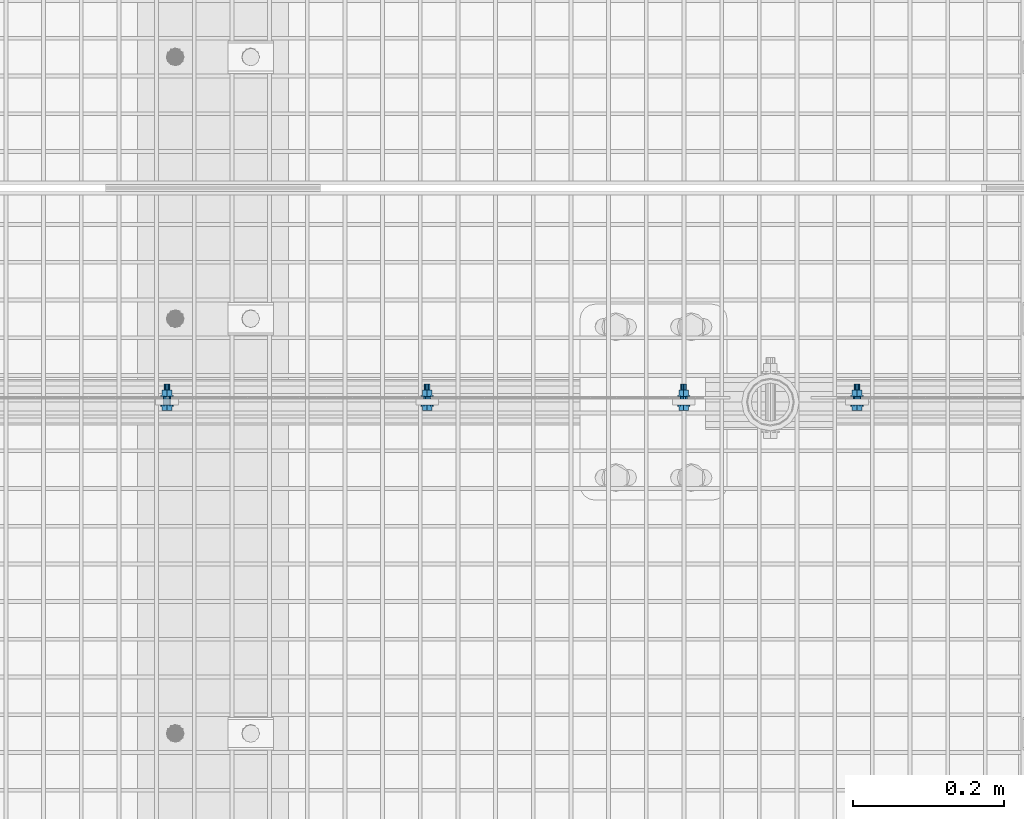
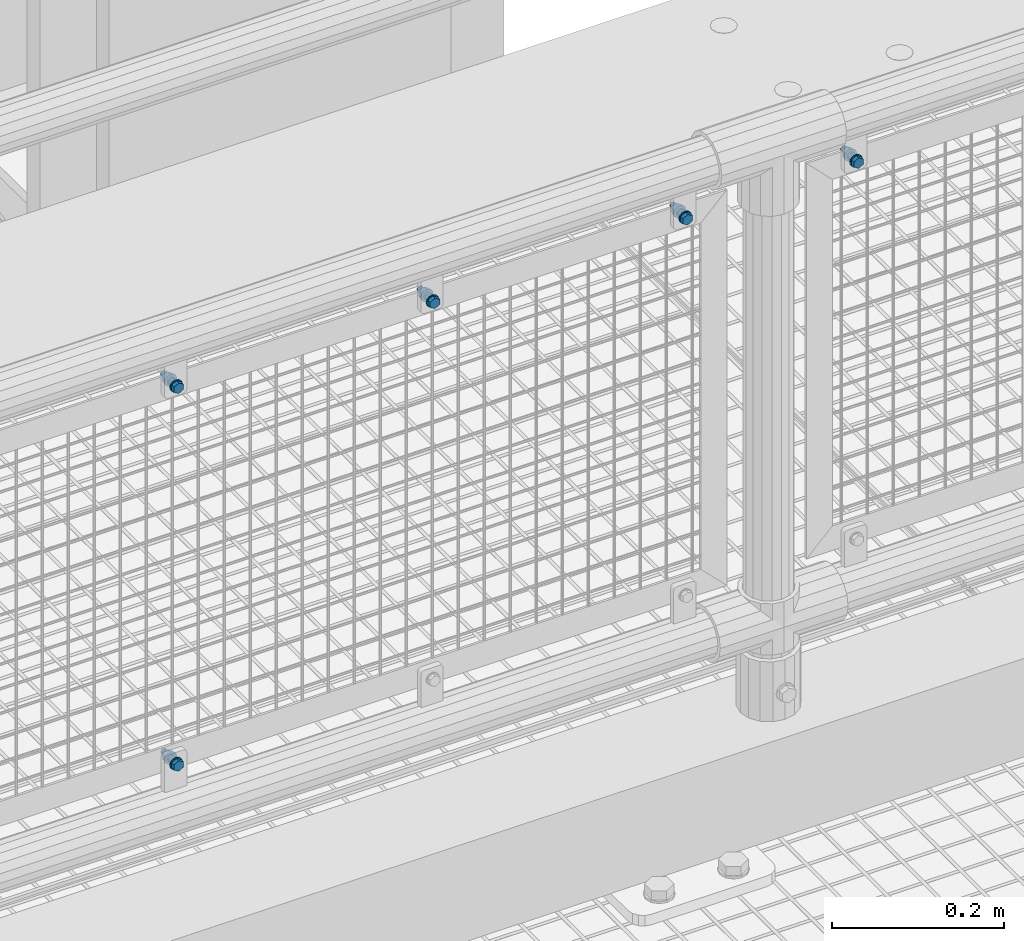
# One storey, part 94 of 1530: 5 mechanical fasteners.
"""IFC2X3 building model written with IfcOpenShell, lengths in millimetres."""

from ifc_helpers import new_model, si_unit, frame, origin_with_axes, place, context, subcontext, project, spatial, faceted_brep, source, transform, mapped, material, type_object, element, save


model = new_model("IFC2X3")

# Units and contexts
model_context = context("Model", 3, precision=1e-05, world=origin_with_axes())
body_context = subcontext(model_context, "Body", "Model", "MODEL_VIEW")
ifc_project = project(units=[si_unit("LENGTHUNIT", "METRE", prefix="MILLI"), si_unit("AREAUNIT", "SQUARE_METRE"), si_unit("VOLUMEUNIT", "CUBIC_METRE"), si_unit("MASSUNIT", "GRAM", prefix="KILO"), si_unit("TIMEUNIT", "SECOND"), si_unit("PLANEANGLEUNIT", "RADIAN"), si_unit("SOLIDANGLEUNIT", "STERADIAN"), si_unit("THERMODYNAMICTEMPERATUREUNIT", "DEGREE_CELSIUS"), si_unit("LUMINOUSINTENSITYUNIT", "LUMEN")], contexts=[model_context])

# Site, building, storey
site_placement = place(None, origin_with_axes())
site = spatial("IfcSite", under=ifc_project, at=site_placement, Name="Brattvåg", CompositionType="ELEMENT")
building_placement = place(site_placement, origin_with_axes())
building = spatial("IfcBuilding", under=site, at=building_placement, Name="Undefined", CompositionType="ELEMENT")
storey_placement = place(building_placement, origin_with_axes())
storey = spatial("IfcBuildingStorey", under=building, at=storey_placement, Name="Undefined", CompositionType="ELEMENT", Elevation=0.0)

# Mechanical fasteners
ifc_material = material(Name="8")
mechanical_fastener_type = type_object("IfcMechanicalFastenerType", Name="Bolt assembly")
shared_shape_1 = source(origin_with_axes(), body_context, "Body", "Brep", [
    faceted_brep([(7.50555349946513, -6.90000021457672, 0.0), (3.75277674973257, -6.90000021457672, 6.5), (-3.75277674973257, -6.90000021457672, 6.5), (-7.50555349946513, -6.90000021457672, 9.19165206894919e-16), (-3.75277674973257, -6.90000021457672, -6.5), (3.75277674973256, -6.90000021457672, -6.5), (3.75277674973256, -1.60000002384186, -6.5), (-3.75277674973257, -1.60000002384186, -6.5), (-7.50555349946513, -1.60000002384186, 9.19165206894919e-16), (-3.75277674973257, -1.60000002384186, 6.5), (3.75277674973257, -1.60000002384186, 6.5), (7.50555349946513, -1.60000002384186, 0.0), (4.0, -1.60000002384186, 0.0), (3.46410161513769, -1.60000002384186, 2.00000000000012), (1.99999999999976, -1.60000002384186, 3.46410161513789), (-4.14534392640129e-13, -1.60000002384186, 4.0), (-2.00000000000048, -1.60000002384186, 3.46410161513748), (-3.4641016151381, -1.60000002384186, 1.9999999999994), (-4.0, -1.60000002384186, -8.29068785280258e-13), (-3.46410161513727, -1.60000002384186, -2.00000000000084), (-1.99999999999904, -1.60000002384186, -3.46410161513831), (1.23916228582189e-12, -1.60000002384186, -4.0), (2.00000000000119, -1.60000002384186, -3.46410161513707), (3.46410161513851, -1.60000002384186, -1.99999999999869), (3.46410161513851, 28.3999999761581, -1.99999999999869), (2.00000000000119, 28.3999999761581, -3.46410161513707), (1.23916228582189e-12, 28.3999999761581, -4.0), (-1.99999999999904, 28.3999999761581, -3.46410161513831), (-3.46410161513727, 28.3999999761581, -2.00000000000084), (-4.0, 28.3999999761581, -8.29068785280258e-13), (-3.4641016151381, 28.3999999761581, 1.9999999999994), (-2.00000000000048, 28.3999999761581, 3.46410161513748), (-4.14534392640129e-13, 28.3999999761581, 4.0), (1.99999999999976, 28.3999999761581, 3.46410161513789), (3.46410161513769, 28.3999999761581, 2.00000000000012), (4.0, 28.3999999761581, 0.0), (8.5, -1.60000002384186, 0.0), (7.36121593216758, -1.60000002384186, 4.25000000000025), (4.24999999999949, -1.60000002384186, 7.36121593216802), (-8.80885584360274e-13, -1.60000002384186, 8.5), (-4.25000000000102, -1.60000002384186, 7.36121593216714), (-7.36121593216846, -1.60000002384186, 4.24999999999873), (-8.5, -1.60000002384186, -1.76177116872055e-12), (-7.3612159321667, -1.60000002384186, -4.25000000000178), (-4.24999999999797, -1.60000002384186, -7.3612159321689), (2.63321985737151e-12, -1.60000002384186, -8.5), (4.25000000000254, -1.60000002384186, -7.36121593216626), (7.36121593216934, -1.60000002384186, -4.24999999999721), (7.36121593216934, 0.0, -4.24999999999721), (4.25000000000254, 0.0, -7.36121593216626), (2.63321985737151e-12, 0.0, -8.5), (-4.24999999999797, 0.0, -7.3612159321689), (-7.3612159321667, 0.0, -4.25000000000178), (-8.5, 0.0, -1.76177116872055e-12), (-7.36121593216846, 0.0, 4.24999999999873), (-4.25000000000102, 0.0, 7.36121593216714), (-8.80885584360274e-13, 0.0, 8.5), (4.24999999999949, 0.0, 7.36121593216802), (7.36121593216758, 0.0, 4.25000000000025), (8.5, 0.0, 0.0), (8.5, 11.5015258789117, 0.0), (7.36121593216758, 11.5015258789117, 4.25000000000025), (4.24999999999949, 11.5015258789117, 7.36121593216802), (-8.80885584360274e-13, 11.5015258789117, 8.5), (-4.25000000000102, 11.5015258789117, 7.36121593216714), (-7.36121593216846, 11.5015258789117, 4.24999999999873), (-8.5, 11.5015258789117, -1.76177116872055e-12), (-7.3612159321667, 11.5015258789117, -4.25000000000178), (-4.24999999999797, 11.5015258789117, -7.3612159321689), (2.63321985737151e-12, 11.5015258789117, -8.5), (4.25000000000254, 11.5015258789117, -7.36121593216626), (7.36121593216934, 11.5015258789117, -4.24999999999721), (7.36121593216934, 13.1015259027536, -4.24999999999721), (4.25000000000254, 13.1015259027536, -7.36121593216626), (2.63321985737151e-12, 13.1015259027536, -8.5), (-4.24999999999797, 13.1015259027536, -7.3612159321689), (-7.3612159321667, 13.1015259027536, -4.25000000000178), (-8.5, 13.1015259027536, -1.76177116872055e-12), (-7.36121593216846, 13.1015259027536, 4.24999999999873), (-4.25000000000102, 13.1015259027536, 7.36121593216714), (-8.80885584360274e-13, 13.1015259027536, 8.5), (4.24999999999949, 13.1015259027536, 7.36121593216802), (7.36121593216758, 13.1015259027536, 4.25000000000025), (8.5, 13.1015259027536, 0.0), (7.50555349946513, 13.1015259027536, 0.0), (3.75277674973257, 13.1015259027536, 6.5), (-3.75277674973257, 13.1015259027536, 6.5), (-7.50555349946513, 13.1015259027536, 9.19165206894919e-16), (-3.75277674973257, 13.1015259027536, -6.5), (3.75277674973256, 13.1015259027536, -6.5), (3.75277674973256, 19.9015260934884, -6.5), (-3.75277674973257, 19.9015260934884, -6.5), (-7.50555349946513, 19.9015260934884, 9.19165206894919e-16), (-3.75277674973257, 19.9015260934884, 6.5), (3.75277674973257, 19.9015260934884, 6.5), (7.50555349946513, 19.9015260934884, 0.0)], [[[0, 1, 2, 3, 4, 5]], [[6, 7, 8, 9, 10, 11]], [[0, 11, 10, 1]], [[1, 10, 9, 2]], [[2, 9, 8, 3]], [[3, 8, 7, 4]], [[4, 7, 6, 5]], [[5, 6, 11, 0]], [[12, 13, 14, 15, 16, 17, 18, 19, 20, 21, 22, 23]], [[24, 25, 26, 27, 28, 29, 30, 31, 32, 33, 34, 35]], [[12, 35, 34, 13]], [[13, 34, 33, 14]], [[14, 33, 32, 15]], [[15, 32, 31, 16]], [[16, 31, 30, 17]], [[17, 30, 29, 18]], [[18, 29, 28, 19]], [[19, 28, 27, 20]], [[20, 27, 26, 21]], [[21, 26, 25, 22]], [[22, 25, 24, 23]], [[23, 24, 35, 12]], [[36, 37, 38, 39, 40, 41, 42, 43, 44, 45, 46, 47]], [[48, 49, 50, 51, 52, 53, 54, 55, 56, 57, 58, 59]], [[36, 59, 58, 37]], [[37, 58, 57, 38]], [[38, 57, 56, 39]], [[39, 56, 55, 40]], [[40, 55, 54, 41]], [[41, 54, 53, 42]], [[42, 53, 52, 43]], [[43, 52, 51, 44]], [[44, 51, 50, 45]], [[45, 50, 49, 46]], [[46, 49, 48, 47]], [[47, 48, 59, 36]], [[60, 61, 62, 63, 64, 65, 66, 67, 68, 69, 70, 71]], [[72, 73, 74, 75, 76, 77, 78, 79, 80, 81, 82, 83]], [[60, 83, 82, 61]], [[61, 82, 81, 62]], [[62, 81, 80, 63]], [[63, 80, 79, 64]], [[64, 79, 78, 65]], [[65, 78, 77, 66]], [[66, 77, 76, 67]], [[67, 76, 75, 68]], [[68, 75, 74, 69]], [[69, 74, 73, 70]], [[70, 73, 72, 71]], [[71, 72, 83, 60]], [[84, 85, 86, 87, 88, 89]], [[90, 91, 92, 93, 94, 95]], [[84, 95, 94, 85]], [[85, 94, 93, 86]], [[86, 93, 92, 87]], [[87, 92, 91, 88]], [[88, 91, 90, 89]], [[89, 90, 95, 84]]]),
    faceted_brep([(5.0, 0.1, 0.0), (4.33012701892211, 0.1, 2.50000000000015), (2.4999999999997, 0.1, 4.33012701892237), (-5.18167990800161e-13, 0.1, 5.0), (-2.5000000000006, 0.1, 4.33012701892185), (-4.33012701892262, 0.1, 2.49999999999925), (-5.0, 0.1, -1.03633598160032e-12), (-4.33012701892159, 0.1, -2.50000000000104), (-2.49999999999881, 0.1, -4.33012701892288), (1.54895285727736e-12, 0.1, -5.0), (2.50000000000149, 0.1, -4.33012701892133), (4.33012701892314, 0.1, -2.49999999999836), (4.33012701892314, 8.1, -2.49999999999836), (2.50000000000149, 8.1, -4.33012701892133), (1.54895285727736e-12, 8.1, -5.0), (-2.49999999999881, 8.1, -4.33012701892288), (-4.33012701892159, 8.1, -2.50000000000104), (-5.0, 8.1, -1.03633598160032e-12), (-4.33012701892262, 8.1, 2.49999999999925), (-2.5000000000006, 8.1, 4.33012701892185), (-5.18167990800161e-13, 8.1, 5.0), (2.4999999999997, 8.1, 4.33012701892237), (4.33012701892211, 8.1, 2.50000000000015), (5.0, 8.1, 0.0), (5.0, 8.40152587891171, 0.0), (4.33012701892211, 8.40152587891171, 2.50000000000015), (2.4999999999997, 8.40152587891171, 4.33012701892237), (-5.18167990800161e-13, 8.40152587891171, 5.0), (-2.5000000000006, 8.40152587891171, 4.33012701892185), (-4.33012701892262, 8.40152587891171, 2.49999999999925), (-5.0, 8.40152587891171, -1.03633598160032e-12), (-4.33012701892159, 8.40152587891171, -2.50000000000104), (-2.49999999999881, 8.40152587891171, -4.33012701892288), (1.54895285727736e-12, 8.40152587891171, -5.0), (2.50000000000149, 8.40152587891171, -4.33012701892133), (4.33012701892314, 8.40152587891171, -2.49999999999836), (4.33012701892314, 11.5015258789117, -2.49999999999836), (2.50000000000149, 11.5015258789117, -4.33012701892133), (1.54895285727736e-12, 11.5015258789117, -5.0), (-2.49999999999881, 11.5015258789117, -4.33012701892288), (-4.33012701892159, 11.5015258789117, -2.50000000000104), (-5.0, 11.5015258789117, -1.03633598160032e-12), (-4.33012701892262, 11.5015258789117, 2.49999999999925), (-2.5000000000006, 11.5015258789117, 4.33012701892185), (-5.18167990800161e-13, 11.5015258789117, 5.0), (2.4999999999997, 11.5015258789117, 4.33012701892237), (4.33012701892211, 11.5015258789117, 2.50000000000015), (5.0, 11.5015258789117, 0.0)], [[[0, 1, 2, 3, 4, 5, 6, 7, 8, 9, 10, 11]], [[12, 13, 14, 15, 16, 17, 18, 19, 20, 21, 22, 23]], [[0, 23, 22, 1]], [[1, 22, 21, 2]], [[2, 21, 20, 3]], [[3, 20, 19, 4]], [[4, 19, 18, 5]], [[5, 18, 17, 6]], [[6, 17, 16, 7]], [[7, 16, 15, 8]], [[8, 15, 14, 9]], [[9, 14, 13, 10]], [[10, 13, 12, 11]], [[11, 12, 23, 0]], [[24, 25, 26, 27, 28, 29, 30, 31, 32, 33, 34, 35]], [[36, 37, 38, 39, 40, 41, 42, 43, 44, 45, 46, 47]], [[24, 47, 46, 25]], [[25, 46, 45, 26]], [[26, 45, 44, 27]], [[27, 44, 43, 28]], [[28, 43, 42, 29]], [[29, 42, 41, 30]], [[30, 41, 40, 31]], [[31, 40, 39, 32]], [[32, 39, 38, 33]], [[33, 38, 37, 34]], [[34, 37, 36, 35]], [[35, 36, 47, 24]]]),
])
for number, where, z_axis, x_axis, name in (
    (1, (11020.8504180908, 7660.49950027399, 889.680069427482), (-1.0, 1.99999855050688e-09, 0.0), (0.0, 0.0, 1.0), "Bolt assembly"),
    (2, (11365.8516387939, 7660.49950027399, 889.680069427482), (-1.0, 1.99999855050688e-09, 0.0), (0.0, 0.0, 1.0), "Bolt assembly"),
    (3, (11935.8509521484, 7660.49950027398, 889.680069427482), (-1.0, 1.99999855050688e-09, 0.0), (0.0, 0.0, 1.0), "Bolt assembly"),
):
    element("IfcMechanicalFastener", number, at=place(storey_placement, frame(where, z_axis=z_axis, x_axis=x_axis)), inside=storey, type_object=mechanical_fastener_type, material=ifc_material, Name=name, NominalDiameter=8.0, NominalLength=30.0, context=body_context, shape_type="MappedRepresentation", body=[
        mapped(shared_shape_1, transform((0.0, 0.0, 0.0))),
    ])
shared_shape_2 = source(origin_with_axes(), body_context, "Body", "Brep", [
    faceted_brep([(7.50555349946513, -6.90000021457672, 0.0), (3.75277674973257, -6.90000021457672, 6.5), (-3.75277674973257, -6.90000021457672, 6.5), (-7.50555349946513, -6.90000021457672, 9.19165206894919e-16), (-3.75277674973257, -6.90000021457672, -6.5), (3.75277674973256, -6.90000021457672, -6.5), (3.75277674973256, -1.60000002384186, -6.5), (-3.75277674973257, -1.60000002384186, -6.5), (-7.50555349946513, -1.60000002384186, 9.19165206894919e-16), (-3.75277674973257, -1.60000002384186, 6.5), (3.75277674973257, -1.60000002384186, 6.5), (7.50555349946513, -1.60000002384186, 0.0), (4.0, -1.60000002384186, 0.0), (3.46410161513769, -1.60000002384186, 2.00000000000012), (1.99999999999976, -1.60000002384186, 3.46410161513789), (-4.14534392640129e-13, -1.60000002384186, 4.0), (-2.00000000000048, -1.60000002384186, 3.46410161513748), (-3.4641016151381, -1.60000002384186, 1.9999999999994), (-4.0, -1.60000002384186, -8.29068785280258e-13), (-3.46410161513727, -1.60000002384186, -2.00000000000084), (-1.99999999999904, -1.60000002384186, -3.46410161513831), (1.23916228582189e-12, -1.60000002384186, -4.0), (2.00000000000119, -1.60000002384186, -3.46410161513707), (3.46410161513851, -1.60000002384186, -1.99999999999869), (3.46410161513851, 28.3999999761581, -1.99999999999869), (2.00000000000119, 28.3999999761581, -3.46410161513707), (1.23916228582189e-12, 28.3999999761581, -4.0), (-1.99999999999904, 28.3999999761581, -3.46410161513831), (-3.46410161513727, 28.3999999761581, -2.00000000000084), (-4.0, 28.3999999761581, -8.29068785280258e-13), (-3.4641016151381, 28.3999999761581, 1.9999999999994), (-2.00000000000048, 28.3999999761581, 3.46410161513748), (-4.14534392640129e-13, 28.3999999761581, 4.0), (1.99999999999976, 28.3999999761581, 3.46410161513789), (3.46410161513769, 28.3999999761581, 2.00000000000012), (4.0, 28.3999999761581, 0.0), (8.5, -1.60000002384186, 0.0), (7.36121593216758, -1.60000002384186, 4.25000000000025), (4.24999999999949, -1.60000002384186, 7.36121593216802), (-8.80885584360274e-13, -1.60000002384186, 8.5), (-4.25000000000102, -1.60000002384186, 7.36121593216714), (-7.36121593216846, -1.60000002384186, 4.24999999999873), (-8.5, -1.60000002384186, -1.76177116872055e-12), (-7.3612159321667, -1.60000002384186, -4.25000000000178), (-4.24999999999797, -1.60000002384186, -7.3612159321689), (2.63321985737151e-12, -1.60000002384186, -8.5), (4.25000000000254, -1.60000002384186, -7.36121593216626), (7.36121593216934, -1.60000002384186, -4.24999999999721), (7.36121593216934, 0.0, -4.24999999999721), (4.25000000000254, 0.0, -7.36121593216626), (2.63321985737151e-12, 0.0, -8.5), (-4.24999999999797, 0.0, -7.3612159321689), (-7.3612159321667, 0.0, -4.25000000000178), (-8.5, 0.0, -1.76177116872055e-12), (-7.36121593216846, 0.0, 4.24999999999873), (-4.25000000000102, 0.0, 7.36121593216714), (-8.80885584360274e-13, 0.0, 8.5), (4.24999999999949, 0.0, 7.36121593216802), (7.36121593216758, 0.0, 4.25000000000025), (8.5, 0.0, 0.0), (8.5, 11.5021362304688, 0.0), (7.36121593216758, 11.5021362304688, 4.25000000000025), (4.24999999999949, 11.5021362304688, 7.36121593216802), (-8.80885584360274e-13, 11.5021362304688, 8.5), (-4.25000000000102, 11.5021362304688, 7.36121593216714), (-7.36121593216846, 11.5021362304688, 4.24999999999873), (-8.5, 11.5021362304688, -1.76177116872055e-12), (-7.3612159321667, 11.5021362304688, -4.25000000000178), (-4.24999999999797, 11.5021362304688, -7.3612159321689), (2.63321985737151e-12, 11.5021362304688, -8.5), (4.25000000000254, 11.5021362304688, -7.36121593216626), (7.36121593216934, 11.5021362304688, -4.24999999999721), (7.36121593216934, 13.1021362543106, -4.24999999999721), (4.25000000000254, 13.1021362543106, -7.36121593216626), (2.63321985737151e-12, 13.1021362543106, -8.5), (-4.24999999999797, 13.1021362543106, -7.3612159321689), (-7.3612159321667, 13.1021362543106, -4.25000000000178), (-8.5, 13.1021362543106, -1.76177116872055e-12), (-7.36121593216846, 13.1021362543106, 4.24999999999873), (-4.25000000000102, 13.1021362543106, 7.36121593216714), (-8.80885584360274e-13, 13.1021362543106, 8.5), (4.24999999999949, 13.1021362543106, 7.36121593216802), (7.36121593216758, 13.1021362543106, 4.25000000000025), (8.5, 13.1021362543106, 0.0), (7.50555349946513, 13.1021362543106, 0.0), (3.75277674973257, 13.1021362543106, 6.5), (-3.75277674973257, 13.1021362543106, 6.5), (-7.50555349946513, 13.1021362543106, 9.19165206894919e-16), (-3.75277674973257, 13.1021362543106, -6.5), (3.75277674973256, 13.1021362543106, -6.5), (3.75277674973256, 19.9021364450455, -6.5), (-3.75277674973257, 19.9021364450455, -6.5), (-7.50555349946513, 19.9021364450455, 9.19165206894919e-16), (-3.75277674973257, 19.9021364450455, 6.5), (3.75277674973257, 19.9021364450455, 6.5), (7.50555349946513, 19.9021364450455, 0.0)], [[[0, 1, 2, 3, 4, 5]], [[6, 7, 8, 9, 10, 11]], [[0, 11, 10, 1]], [[1, 10, 9, 2]], [[2, 9, 8, 3]], [[3, 8, 7, 4]], [[4, 7, 6, 5]], [[5, 6, 11, 0]], [[12, 13, 14, 15, 16, 17, 18, 19, 20, 21, 22, 23]], [[24, 25, 26, 27, 28, 29, 30, 31, 32, 33, 34, 35]], [[12, 35, 34, 13]], [[13, 34, 33, 14]], [[14, 33, 32, 15]], [[15, 32, 31, 16]], [[16, 31, 30, 17]], [[17, 30, 29, 18]], [[18, 29, 28, 19]], [[19, 28, 27, 20]], [[20, 27, 26, 21]], [[21, 26, 25, 22]], [[22, 25, 24, 23]], [[23, 24, 35, 12]], [[36, 37, 38, 39, 40, 41, 42, 43, 44, 45, 46, 47]], [[48, 49, 50, 51, 52, 53, 54, 55, 56, 57, 58, 59]], [[36, 59, 58, 37]], [[37, 58, 57, 38]], [[38, 57, 56, 39]], [[39, 56, 55, 40]], [[40, 55, 54, 41]], [[41, 54, 53, 42]], [[42, 53, 52, 43]], [[43, 52, 51, 44]], [[44, 51, 50, 45]], [[45, 50, 49, 46]], [[46, 49, 48, 47]], [[47, 48, 59, 36]], [[60, 61, 62, 63, 64, 65, 66, 67, 68, 69, 70, 71]], [[72, 73, 74, 75, 76, 77, 78, 79, 80, 81, 82, 83]], [[60, 83, 82, 61]], [[61, 82, 81, 62]], [[62, 81, 80, 63]], [[63, 80, 79, 64]], [[64, 79, 78, 65]], [[65, 78, 77, 66]], [[66, 77, 76, 67]], [[67, 76, 75, 68]], [[68, 75, 74, 69]], [[69, 74, 73, 70]], [[70, 73, 72, 71]], [[71, 72, 83, 60]], [[84, 85, 86, 87, 88, 89]], [[90, 91, 92, 93, 94, 95]], [[84, 95, 94, 85]], [[85, 94, 93, 86]], [[86, 93, 92, 87]], [[87, 92, 91, 88]], [[88, 91, 90, 89]], [[89, 90, 95, 84]]]),
    faceted_brep([(5.0, 0.1, 0.0), (4.33012701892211, 0.1, 2.50000000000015), (2.4999999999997, 0.1, 4.33012701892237), (-5.18167990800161e-13, 0.1, 5.0), (-2.5000000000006, 0.1, 4.33012701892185), (-4.33012701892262, 0.1, 2.49999999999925), (-5.0, 0.1, -1.03633598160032e-12), (-4.33012701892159, 0.1, -2.50000000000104), (-2.49999999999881, 0.1, -4.33012701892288), (1.54895285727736e-12, 0.1, -5.0), (2.50000000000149, 0.1, -4.33012701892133), (4.33012701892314, 0.1, -2.49999999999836), (4.33012701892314, 8.1, -2.49999999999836), (2.50000000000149, 8.1, -4.33012701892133), (1.54895285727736e-12, 8.1, -5.0), (-2.49999999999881, 8.1, -4.33012701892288), (-4.33012701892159, 8.1, -2.50000000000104), (-5.0, 8.1, -1.03633598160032e-12), (-4.33012701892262, 8.1, 2.49999999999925), (-2.5000000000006, 8.1, 4.33012701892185), (-5.18167990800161e-13, 8.1, 5.0), (2.4999999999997, 8.1, 4.33012701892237), (4.33012701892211, 8.1, 2.50000000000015), (5.0, 8.1, 0.0), (5.0, 8.40213623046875, 0.0), (4.33012701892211, 8.40213623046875, 2.50000000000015), (2.4999999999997, 8.40213623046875, 4.33012701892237), (-5.18167990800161e-13, 8.40213623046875, 5.0), (-2.5000000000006, 8.40213623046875, 4.33012701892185), (-4.33012701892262, 8.40213623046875, 2.49999999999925), (-5.0, 8.40213623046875, -1.03633598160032e-12), (-4.33012701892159, 8.40213623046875, -2.50000000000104), (-2.49999999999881, 8.40213623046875, -4.33012701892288), (1.54895285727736e-12, 8.40213623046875, -5.0), (2.50000000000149, 8.40213623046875, -4.33012701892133), (4.33012701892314, 8.40213623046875, -2.49999999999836), (4.33012701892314, 11.5021362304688, -2.49999999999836), (2.50000000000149, 11.5021362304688, -4.33012701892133), (1.54895285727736e-12, 11.5021362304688, -5.0), (-2.49999999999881, 11.5021362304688, -4.33012701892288), (-4.33012701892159, 11.5021362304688, -2.50000000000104), (-5.0, 11.5021362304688, -1.03633598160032e-12), (-4.33012701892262, 11.5021362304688, 2.49999999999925), (-2.5000000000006, 11.5021362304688, 4.33012701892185), (-5.18167990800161e-13, 11.5021362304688, 5.0), (2.4999999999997, 11.5021362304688, 4.33012701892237), (4.33012701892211, 11.5021362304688, 2.50000000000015), (5.0, 11.5021362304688, 0.0)], [[[0, 1, 2, 3, 4, 5, 6, 7, 8, 9, 10, 11]], [[12, 13, 14, 15, 16, 17, 18, 19, 20, 21, 22, 23]], [[0, 23, 22, 1]], [[1, 22, 21, 2]], [[2, 21, 20, 3]], [[3, 20, 19, 4]], [[4, 19, 18, 5]], [[5, 18, 17, 6]], [[6, 17, 16, 7]], [[7, 16, 15, 8]], [[8, 15, 14, 9]], [[9, 14, 13, 10]], [[10, 13, 12, 11]], [[11, 12, 23, 0]], [[24, 25, 26, 27, 28, 29, 30, 31, 32, 33, 34, 35]], [[36, 37, 38, 39, 40, 41, 42, 43, 44, 45, 46, 47]], [[24, 47, 46, 25]], [[25, 46, 45, 26]], [[26, 45, 44, 27]], [[27, 44, 43, 28]], [[28, 43, 42, 29]], [[29, 42, 41, 30]], [[30, 41, 40, 31]], [[31, 40, 39, 32]], [[32, 39, 38, 33]], [[33, 38, 37, 34]], [[34, 37, 36, 35]], [[35, 36, 47, 24]]]),
])
mechanical_fastener_1_placement = place(storey_placement, frame((11706.0000915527, 7660.49888992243, 889.679782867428), z_axis=(-1.0, 1.99999855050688e-09, 0.0), x_axis=(0.0, 0.0, 1.0)))
element("IfcMechanicalFastener", 4, at=mechanical_fastener_1_placement, inside=storey, type_object=mechanical_fastener_type, material=ifc_material, Name="Bolt assembly", NominalDiameter=8.0, NominalLength=30.0, context=body_context, shape_type="MappedRepresentation", body=[
    mapped(shared_shape_2, transform((0.0, 0.0, 0.0))),
])
shared_shape_3 = source(origin_with_axes(), body_context, "Body", "Brep", [
    faceted_brep([(7.50555349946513, -6.899000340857, 0.0), (3.75277674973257, -6.899000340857, 6.5), (-3.75277674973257, -6.899000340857, 6.5), (-7.50555349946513, -6.899000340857, 9.19165206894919e-16), (-3.75277674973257, -6.899000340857, -6.5), (3.75277674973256, -6.899000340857, -6.5), (3.75277674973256, -1.59900015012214, -6.5), (-3.75277674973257, -1.59900015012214, -6.5), (-7.50555349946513, -1.59900015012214, 9.19165206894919e-16), (-3.75277674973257, -1.59900015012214, 6.5), (3.75277674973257, -1.59900015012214, 6.5), (7.50555349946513, -1.59900015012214, 0.0), (4.0, -1.59900015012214, 0.0), (3.46410161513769, -1.59900015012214, 2.00000000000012), (1.99999999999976, -1.59900015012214, 3.46410161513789), (-4.14534392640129e-13, -1.59900015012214, 4.0), (-2.00000000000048, -1.59900015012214, 3.46410161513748), (-3.4641016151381, -1.59900015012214, 1.9999999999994), (-4.0, -1.59900015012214, -8.29068785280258e-13), (-3.46410161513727, -1.59900015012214, -2.00000000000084), (-1.99999999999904, -1.59900015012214, -3.46410161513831), (1.23916228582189e-12, -1.59900015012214, -4.0), (2.00000000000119, -1.59900015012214, -3.46410161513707), (3.46410161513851, -1.59900015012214, -1.99999999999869), (3.46410161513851, 28.4009998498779, -1.99999999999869), (2.00000000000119, 28.4009998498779, -3.46410161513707), (1.23916228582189e-12, 28.4009998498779, -4.0), (-1.99999999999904, 28.4009998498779, -3.46410161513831), (-3.46410161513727, 28.4009998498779, -2.00000000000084), (-4.0, 28.4009998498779, -8.29068785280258e-13), (-3.4641016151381, 28.4009998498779, 1.9999999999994), (-2.00000000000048, 28.4009998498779, 3.46410161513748), (-4.14534392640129e-13, 28.4009998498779, 4.0), (1.99999999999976, 28.4009998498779, 3.46410161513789), (3.46410161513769, 28.4009998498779, 2.00000000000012), (4.0, 28.4009998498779, 0.0), (8.5, -1.59900015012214, 0.0), (7.36121593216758, -1.59900015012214, 4.25000000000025), (4.24999999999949, -1.59900015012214, 7.36121593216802), (-8.80885584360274e-13, -1.59900015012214, 8.5), (-4.25000000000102, -1.59900015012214, 7.36121593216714), (-7.36121593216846, -1.59900015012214, 4.24999999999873), (-8.5, -1.59900015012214, -1.76177116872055e-12), (-7.3612159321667, -1.59900015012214, -4.25000000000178), (-4.24999999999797, -1.59900015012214, -7.3612159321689), (2.63321985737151e-12, -1.59900015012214, -8.5), (4.25000000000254, -1.59900015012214, -7.36121593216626), (7.36121593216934, -1.59900015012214, -4.24999999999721), (7.36121593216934, 0.000999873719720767, -4.24999999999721), (4.25000000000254, 0.000999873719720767, -7.36121593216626), (2.63321985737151e-12, 0.000999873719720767, -8.5), (-4.24999999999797, 0.000999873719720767, -7.3612159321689), (-7.3612159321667, 0.000999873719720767, -4.25000000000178), (-8.5, 0.000999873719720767, -1.76177116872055e-12), (-7.36121593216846, 0.000999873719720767, 4.24999999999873), (-4.25000000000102, 0.000999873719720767, 7.36121593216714), (-8.80885584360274e-13, 0.000999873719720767, 8.5), (4.24999999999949, 0.000999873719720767, 7.36121593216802), (7.36121593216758, 0.000999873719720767, 4.25000000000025), (8.5, 0.000999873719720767, 0.0), (8.5, 11.5035404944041, 0.0), (7.36121593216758, 11.5035404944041, 4.25000000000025), (4.24999999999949, 11.5035404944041, 7.36121593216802), (-8.80885584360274e-13, 11.5035404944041, 8.5), (-4.25000000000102, 11.5035404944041, 7.36121593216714), (-7.36121593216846, 11.5035404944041, 4.24999999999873), (-8.5, 11.5035404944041, -1.76177116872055e-12), (-7.3612159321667, 11.5035404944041, -4.25000000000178), (-4.24999999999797, 11.5035404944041, -7.3612159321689), (2.63321985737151e-12, 11.5035404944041, -8.5), (4.25000000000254, 11.5035404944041, -7.36121593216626), (7.36121593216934, 11.5035404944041, -4.24999999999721), (7.36121593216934, 13.1035405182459, -4.24999999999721), (4.25000000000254, 13.1035405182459, -7.36121593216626), (2.63321985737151e-12, 13.1035405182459, -8.5), (-4.24999999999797, 13.1035405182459, -7.3612159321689), (-7.3612159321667, 13.1035405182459, -4.25000000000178), (-8.5, 13.1035405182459, -1.76177116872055e-12), (-7.36121593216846, 13.1035405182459, 4.24999999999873), (-4.25000000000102, 13.1035405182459, 7.36121593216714), (-8.80885584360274e-13, 13.1035405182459, 8.5), (4.24999999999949, 13.1035405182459, 7.36121593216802), (7.36121593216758, 13.1035405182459, 4.25000000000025), (8.5, 13.1035405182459, 0.0), (7.50555349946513, 13.1035405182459, 0.0), (3.75277674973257, 13.1035405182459, 6.5), (-3.75277674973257, 13.1035405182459, 6.5), (-7.50555349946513, 13.1035405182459, 9.19165206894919e-16), (-3.75277674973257, 13.1035405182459, -6.5), (3.75277674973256, 13.1035405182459, -6.5), (3.75277674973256, 19.9035407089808, -6.5), (-3.75277674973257, 19.9035407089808, -6.5), (-7.50555349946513, 19.9035407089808, 9.19165206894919e-16), (-3.75277674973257, 19.9035407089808, 6.5), (3.75277674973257, 19.9035407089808, 6.5), (7.50555349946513, 19.9035407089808, 0.0)], [[[0, 1, 2, 3, 4, 5]], [[6, 7, 8, 9, 10, 11]], [[0, 11, 10, 1]], [[1, 10, 9, 2]], [[2, 9, 8, 3]], [[3, 8, 7, 4]], [[4, 7, 6, 5]], [[5, 6, 11, 0]], [[12, 13, 14, 15, 16, 17, 18, 19, 20, 21, 22, 23]], [[24, 25, 26, 27, 28, 29, 30, 31, 32, 33, 34, 35]], [[12, 35, 34, 13]], [[13, 34, 33, 14]], [[14, 33, 32, 15]], [[15, 32, 31, 16]], [[16, 31, 30, 17]], [[17, 30, 29, 18]], [[18, 29, 28, 19]], [[19, 28, 27, 20]], [[20, 27, 26, 21]], [[21, 26, 25, 22]], [[22, 25, 24, 23]], [[23, 24, 35, 12]], [[36, 37, 38, 39, 40, 41, 42, 43, 44, 45, 46, 47]], [[48, 49, 50, 51, 52, 53, 54, 55, 56, 57, 58, 59]], [[36, 59, 58, 37]], [[37, 58, 57, 38]], [[38, 57, 56, 39]], [[39, 56, 55, 40]], [[40, 55, 54, 41]], [[41, 54, 53, 42]], [[42, 53, 52, 43]], [[43, 52, 51, 44]], [[44, 51, 50, 45]], [[45, 50, 49, 46]], [[46, 49, 48, 47]], [[47, 48, 59, 36]], [[60, 61, 62, 63, 64, 65, 66, 67, 68, 69, 70, 71]], [[72, 73, 74, 75, 76, 77, 78, 79, 80, 81, 82, 83]], [[60, 83, 82, 61]], [[61, 82, 81, 62]], [[62, 81, 80, 63]], [[63, 80, 79, 64]], [[64, 79, 78, 65]], [[65, 78, 77, 66]], [[66, 77, 76, 67]], [[67, 76, 75, 68]], [[68, 75, 74, 69]], [[69, 74, 73, 70]], [[70, 73, 72, 71]], [[71, 72, 83, 60]], [[84, 85, 86, 87, 88, 89]], [[90, 91, 92, 93, 94, 95]], [[84, 95, 94, 85]], [[85, 94, 93, 86]], [[86, 93, 92, 87]], [[87, 92, 91, 88]], [[88, 91, 90, 89]], [[89, 90, 95, 84]]]),
    faceted_brep([(5.0, 0.100999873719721, 0.0), (4.33012701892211, 0.100999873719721, 2.50000000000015), (2.4999999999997, 0.100999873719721, 4.33012701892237), (-5.18167990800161e-13, 0.100999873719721, 5.0), (-2.5000000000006, 0.100999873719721, 4.33012701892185), (-4.33012701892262, 0.100999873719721, 2.49999999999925), (-5.0, 0.100999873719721, -1.03633598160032e-12), (-4.33012701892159, 0.100999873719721, -2.50000000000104), (-2.49999999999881, 0.100999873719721, -4.33012701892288), (1.54895285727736e-12, 0.100999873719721, -5.0), (2.50000000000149, 0.100999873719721, -4.33012701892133), (4.33012701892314, 0.100999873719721, -2.49999999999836), (4.33012701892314, 8.10099988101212, -2.49999999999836), (2.50000000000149, 8.10099988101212, -4.33012701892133), (1.54895285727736e-12, 8.10099988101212, -5.0), (-2.49999999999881, 8.10099988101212, -4.33012701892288), (-4.33012701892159, 8.10099988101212, -2.50000000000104), (-5.0, 8.10099988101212, -1.03633598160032e-12), (-4.33012701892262, 8.10099988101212, 2.49999999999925), (-2.5000000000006, 8.10099988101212, 4.33012701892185), (-5.18167990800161e-13, 8.10099988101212, 5.0), (2.4999999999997, 8.10099988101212, 4.33012701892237), (4.33012701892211, 8.10099988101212, 2.50000000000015), (5.0, 8.10099988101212, 0.0), (5.0, 8.40354049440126, 0.0), (4.33012701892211, 8.40354049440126, 2.50000000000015), (2.4999999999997, 8.40354049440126, 4.33012701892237), (-5.18167990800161e-13, 8.40354049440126, 5.0), (-2.5000000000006, 8.40354049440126, 4.33012701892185), (-4.33012701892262, 8.40354049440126, 2.49999999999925), (-5.0, 8.40354049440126, -1.03633598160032e-12), (-4.33012701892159, 8.40354049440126, -2.50000000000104), (-2.49999999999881, 8.40354049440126, -4.33012701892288), (1.54895285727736e-12, 8.40354049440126, -5.0), (2.50000000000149, 8.40354049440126, -4.33012701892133), (4.33012701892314, 8.40354049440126, -2.49999999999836), (4.33012701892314, 11.5035404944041, -2.49999999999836), (2.50000000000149, 11.5035404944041, -4.33012701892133), (1.54895285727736e-12, 11.5035404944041, -5.0), (-2.49999999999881, 11.5035404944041, -4.33012701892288), (-4.33012701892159, 11.5035404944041, -2.50000000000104), (-5.0, 11.5035404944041, -1.03633598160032e-12), (-4.33012701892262, 11.5035404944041, 2.49999999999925), (-2.5000000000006, 11.5035404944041, 4.33012701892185), (-5.18167990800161e-13, 11.5035404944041, 5.0), (2.4999999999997, 11.5035404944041, 4.33012701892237), (4.33012701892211, 11.5035404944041, 2.50000000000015), (5.0, 11.5035404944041, 0.0)], [[[0, 1, 2, 3, 4, 5, 6, 7, 8, 9, 10, 11]], [[12, 13, 14, 15, 16, 17, 18, 19, 20, 21, 22, 23]], [[0, 23, 22, 1]], [[1, 22, 21, 2]], [[2, 21, 20, 3]], [[3, 20, 19, 4]], [[4, 19, 18, 5]], [[5, 18, 17, 6]], [[6, 17, 16, 7]], [[7, 16, 15, 8]], [[8, 15, 14, 9]], [[9, 14, 13, 10]], [[10, 13, 12, 11]], [[11, 12, 23, 0]], [[24, 25, 26, 27, 28, 29, 30, 31, 32, 33, 34, 35]], [[36, 37, 38, 39, 40, 41, 42, 43, 44, 45, 46, 47]], [[24, 47, 46, 25]], [[25, 46, 45, 26]], [[26, 45, 44, 27]], [[27, 44, 43, 28]], [[28, 43, 42, 29]], [[29, 42, 41, 30]], [[30, 41, 40, 31]], [[31, 40, 39, 32]], [[32, 39, 38, 33]], [[33, 38, 37, 34]], [[34, 37, 36, 35]], [[35, 36, 47, 24]]]),
])
mechanical_fastener_2_placement = place(storey_placement, frame((11020.8500747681, 7660.49843978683, 352.299672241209), z_axis=(-1.0, 1.99999855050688e-09, 0.0), x_axis=(0.0, 0.0, 1.0)))
element("IfcMechanicalFastener", 5, at=mechanical_fastener_2_placement, inside=storey, type_object=mechanical_fastener_type, material=ifc_material, Name="Bolt assembly", NominalDiameter=8.0, NominalLength=30.0, context=body_context, shape_type="MappedRepresentation", body=[
    mapped(shared_shape_3, transform((0.0, 0.0, 0.0))),
])

save(model, "model.ifc")
